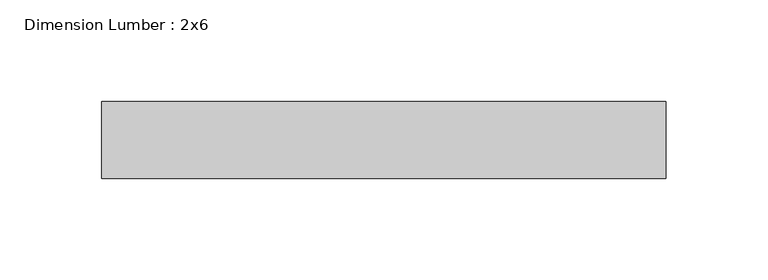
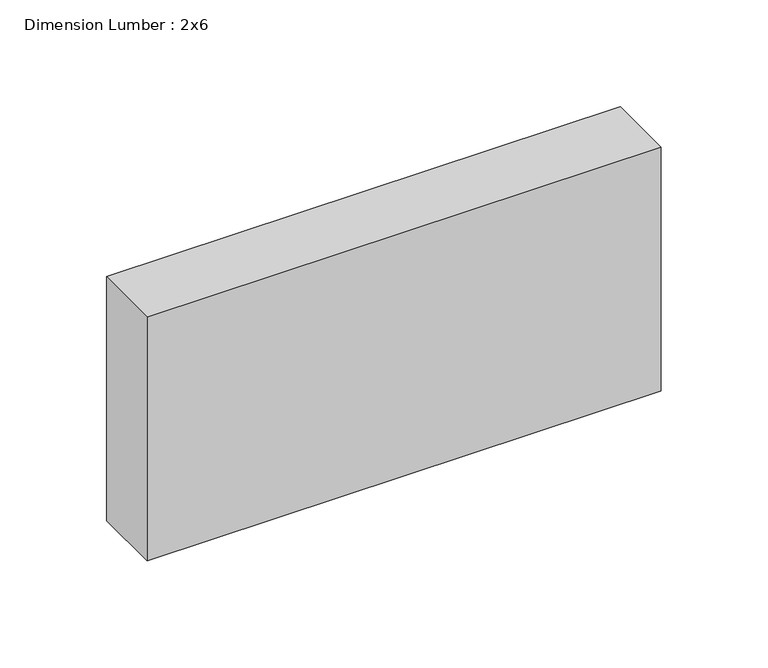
"""IFC4 building model written with IfcOpenShell, lengths in millimetres: beam geometry, Dimension Lumber : 2x6."""

from ifc_helpers import new_model, si_unit, frame, origin, place, context, project, spatial, polyline, outline, extrude, source, transform, mapped, element, save


def dimension_lumber_2x6_184016b7(model_context):
    return source(origin(), model_context, "Body", "SweptSolid", [
        extrude(outline(polyline([(139.1137095, 19.05), (139.1137095, -19.05), (-139.1137095, -19.05), (-139.1137095, 19.05), (139.1137095, 19.05)])), frame((0.0, 0.0, -69.85), z_axis=(0.0, 0.0, 1.0), x_axis=(1.0, 0.0, 0.0)), (0.0, 0.0, 1.0), 139.7),
    ])


if __name__ == "__main__":
    model = new_model("IFC4")
    model_context = context("Model", 3, world=origin())
    ifc_project = project(units=[si_unit("LENGTHUNIT", "METRE", prefix="MILLI")], contexts=[model_context])
    site = spatial("IfcSite", under=ifc_project)
    building = spatial("IfcBuilding", under=site)
    placement = place(None, origin())
    dimension_lumber_2x6_shape = dimension_lumber_2x6_184016b7(model_context)
    element("IfcBeam", 1, ObjectType="Dimension Lumber : 2x6", at=placement, inside=building, context=model_context, shape_type="MappedRepresentation", body=[
        mapped(dimension_lumber_2x6_shape, transform((0.0, 0.0, 0.0), x_axis=(1.0, 0.0, 0.0), y_axis=(0.0, 1.0, 0.0), z_axis=(0.0, 0.0, 1.0))),
    ])
    save(model, "model.ifc")
